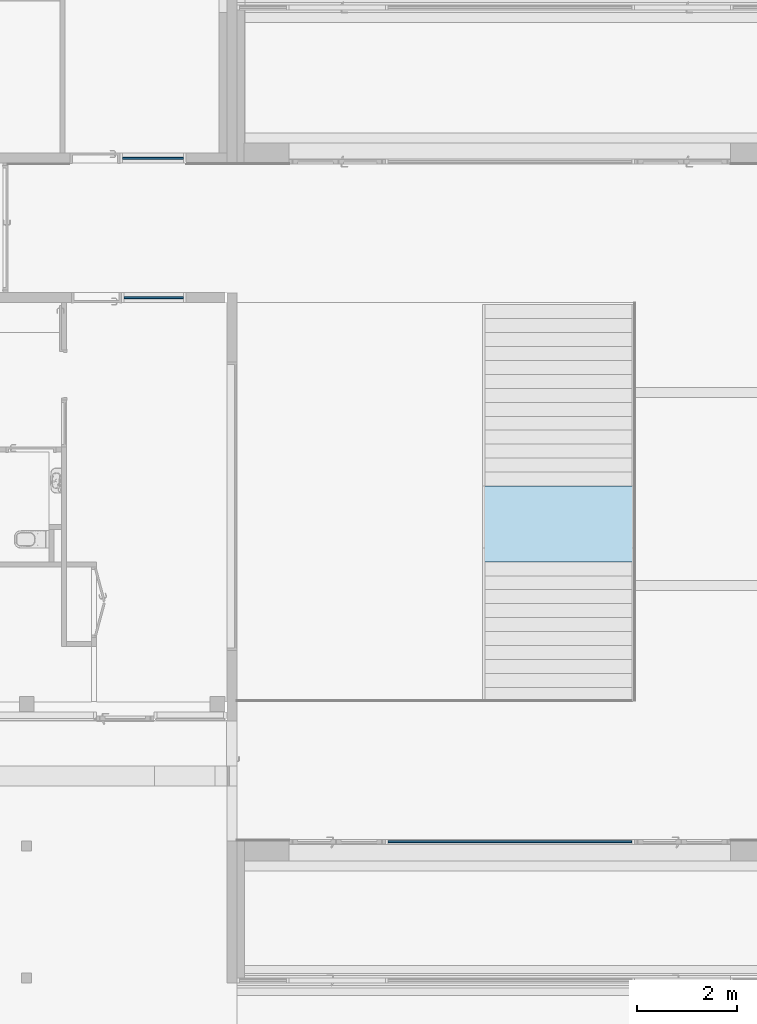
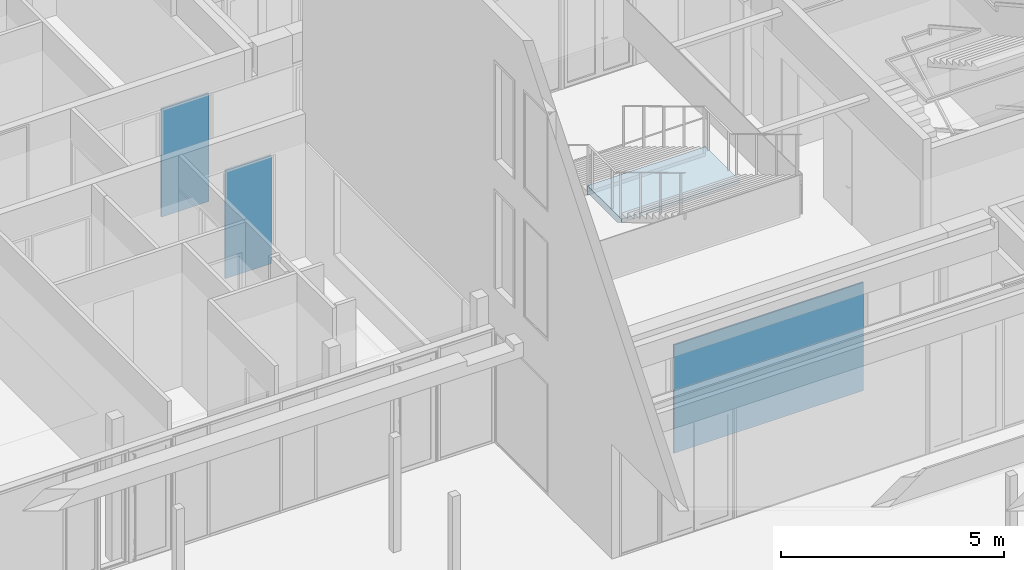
# One storey, part 70 of 240: 3 plates, 1 slab, 4 elements without a shape of their own.
"""IFC2X3 building model written with IfcOpenShell, lengths in centimetres."""

from ifc_helpers import new_model, entity, si_unit, converted_unit, derived_unit, direction, frame, frame_2d, origin, origin_2d_with_axis, place, context, subcontext, project, spatial, polyline, rectangle, outline, extrude, source, transform, mapped, material, layer, layer_set, layer_usage, type_object, type_shapes, element, aggregate, save


model = new_model("IFC2X3")

# Units and contexts
model_context = context("Model", 3, precision=0.001, world=origin(), true_north=direction((6.12303176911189e-17, 1.0)))
body_context = subcontext(model_context, "Body", "Model", "MODEL_VIEW")
ifc_project = project(units=[si_unit("LENGTHUNIT", "METRE", prefix="CENTI"), si_unit("AREAUNIT", "SQUARE_METRE"), si_unit("VOLUMEUNIT", "CUBIC_METRE"), converted_unit("PLANEANGLEUNIT", "DEGREE", entity("IfcRatioMeasure", 0.0174532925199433), si_unit("PLANEANGLEUNIT", "RADIAN"), dimensions=[0, 0, 0, 0, 0, 0, 0]), si_unit("MASSUNIT", "GRAM", prefix="KILO"), derived_unit("MASSDENSITYUNIT", [(si_unit("MASSUNIT", "GRAM", prefix="KILO"), 1), (si_unit("LENGTHUNIT", "METRE"), -3)]), si_unit("TIMEUNIT", "SECOND"), si_unit("FREQUENCYUNIT", "HERTZ"), si_unit("THERMODYNAMICTEMPERATUREUNIT", "DEGREE_CELSIUS"), derived_unit("THERMALTRANSMITTANCEUNIT", [(si_unit("MASSUNIT", "GRAM", prefix="KILO"), 1), (si_unit("THERMODYNAMICTEMPERATUREUNIT", "KELVIN"), -1), (si_unit("TIMEUNIT", "SECOND"), -3)]), derived_unit("VOLUMETRICFLOWRATEUNIT", [(si_unit("LENGTHUNIT", "METRE"), 3), (si_unit("TIMEUNIT", "SECOND"), -1)]), si_unit("ELECTRICCURRENTUNIT", "AMPERE"), si_unit("ELECTRICVOLTAGEUNIT", "VOLT"), si_unit("POWERUNIT", "WATT"), si_unit("FORCEUNIT", "NEWTON", prefix="KILO"), si_unit("ILLUMINANCEUNIT", "LUX"), si_unit("LUMINOUSFLUXUNIT", "LUMEN"), si_unit("LUMINOUSINTENSITYUNIT", "CANDELA"), derived_unit("USERDEFINED", [(si_unit("MASSUNIT", "GRAM", prefix="KILO"), -1), (si_unit("LENGTHUNIT", "METRE"), -2), (si_unit("TIMEUNIT", "SECOND"), 3), (si_unit("LUMINOUSFLUXUNIT", "LUMEN"), 1)]), derived_unit("LINEARVELOCITYUNIT", [(si_unit("LENGTHUNIT", "METRE"), 1), (si_unit("TIMEUNIT", "SECOND"), -1)]), si_unit("PRESSUREUNIT", "PASCAL"), derived_unit("USERDEFINED", [(si_unit("LENGTHUNIT", "METRE"), -2), (si_unit("MASSUNIT", "GRAM", prefix="KILO"), 1), (si_unit("TIMEUNIT", "SECOND"), -2)])], contexts=[model_context])

# Site, building, storey
site_placement = place(None, frame((-2781.94577612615, 7442.24238424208, 0.0)))
site = spatial("IfcSite", under=ifc_project, at=site_placement, Name="Default", CompositionType="ELEMENT")
building_placement = place(site_placement, origin())
building = spatial("IfcBuilding", under=site, at=building_placement, CompositionType="ELEMENT")
storey_placement = place(building_placement, origin())
storey = spatial("IfcBuildingStorey", under=building, at=storey_placement, Name="N00 - COO", CompositionType="ELEMENT", Elevation=0.0)

# Curtain wall, plate
curtain_wall_type_1 = type_object("IfcCurtainWallType", Name="Mur-rideau:07 - mur rideau vitrage sans recoupement 10cm", PredefinedType="NOTDEFINED")
curtain_wall_1_placement = place(storey_placement, origin())
curtain_wall_1 = element("IfcCurtainWall", 1, at=curtain_wall_1_placement, inside=storey, type_object=curtain_wall_type_1, Name="Mur-rideau:07 - mur rideau vitrage sans recoupement 10cm", ObjectType="Mur-rideau:07 - mur rideau vitrage sans recoupement 10cm")
ifc_material_1 = material(Name="Verre")
ifc_layer = layer(ifc_material_1, 4.0)
ifc_layer_set = layer_set([ifc_layer], Name="Panneau système:Vitré")
ifc_layer_usage_1 = layer_usage(ifc_layer_set, "AXIS3", "POSITIVE", 0.0)
plate_type_1 = type_object("IfcPlateType", Name="Vitré", PredefinedType="CURTAIN_PANEL", material=ifc_layer_set)
shared_shape_1 = source(origin(), body_context, "Body", "SweptSolid", [
    extrude(rectangle(XDim=4.0, YDim=490.0, at=origin_2d_with_axis()), frame((0.0, 0.0, 0.0), z_axis=(0.0, 0.0, 1.0), x_axis=(0.0, 1.0, 0.0)), (0.0, 0.0, 1.0), 296.0),
])
type_shapes(plate_type_1, [shared_shape_1])
plate_1_placement = place(curtain_wall_1_placement, frame((-4219.99987968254, -2192.01654856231, 5.0), z_axis=(0.0, 0.0, 1.0), x_axis=(-1.0, 0.0, 0.0)))
plate_1 = element("IfcPlate", 2, at=plate_1_placement, type_object=plate_type_1, material=ifc_layer_usage_1, Name="Panneau système:Vitré", ObjectType="Panneau système:Vitré", context=body_context, shape_type="MappedRepresentation", body=[
    mapped(shared_shape_1, transform((0.0, 0.0, 0.0), scale=1.0)),
])
aggregate(curtain_wall_1, [plate_1])

curtain_wall_type_2 = type_object("IfcCurtainWallType", PredefinedType="NOTDEFINED")
curtain_wall_2_placement = place(building_placement, origin())
curtain_wall_2 = element("IfcCurtainWall", 3, at=curtain_wall_2_placement, inside=storey, type_object=curtain_wall_type_2)
ifc_layer_usage_2 = layer_usage(ifc_layer_set, "AXIS3", "POSITIVE", 0.0)
plate_type_2 = type_object("IfcPlateType", Name="Vitré", PredefinedType="CURTAIN_PANEL", material=ifc_layer_set)
shared_shape_2 = source(origin(), body_context, "Body", "SweptSolid", [
    extrude(rectangle(XDim=4.0, YDim=120.000000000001, at=frame_2d((0.0, -3.5527136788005e-15), x_axis=(1.0, 0.0))), frame((0.0, 0.0, 0.0), z_axis=(0.0, 0.0, 1.0), x_axis=(0.0, 1.0, 0.0)), (0.0, 0.0, 1.0), 296.0),
])
type_shapes(plate_type_2, [shared_shape_2])
plate_2_placement = place(curtain_wall_2_placement, frame((-4934.49987760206, -1100.0, 5.0)))
plate_2 = element("IfcPlate", 4, at=plate_2_placement, type_object=plate_type_2, material=ifc_layer_usage_2, Name="Panneau système:Vitré", ObjectType="Panneau système:Vitré", context=body_context, shape_type="MappedRepresentation", body=[
    mapped(shared_shape_2, transform((0.0, 0.0, 0.0), scale=1.0)),
])
aggregate(curtain_wall_2, [plate_2])

curtain_wall_3_placement = place(storey_placement, origin())
curtain_wall_3 = element("IfcCurtainWall", 5, at=curtain_wall_3_placement, inside=storey, type_object=curtain_wall_type_2)
ifc_layer_usage_3 = layer_usage(ifc_layer_set, "AXIS3", "POSITIVE", 0.0)
plate_type_3 = type_object("IfcPlateType", Name="Vitré", PredefinedType="CURTAIN_PANEL", material=ifc_layer_set)
shared_shape_3 = source(origin(), body_context, "Body", "SweptSolid", [
    extrude(rectangle(XDim=4.0, YDim=123.00000000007, at=origin_2d_with_axis()), frame((0.0, 0.0, 0.0), z_axis=(0.0, 0.0, 1.0), x_axis=(0.0, 1.0, 0.0)), (0.0, 0.0, 1.0), 296.0),
])
type_shapes(plate_type_3, [shared_shape_3])
plate_3_placement = place(curtain_wall_3_placement, frame((-4935.99987760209, -820.048500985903, 5.0)))
plate_3 = element("IfcPlate", 6, at=plate_3_placement, type_object=plate_type_3, material=ifc_layer_usage_3, Name="Panneau système:Vitré", ObjectType="Panneau système:Vitré", context=body_context, shape_type="MappedRepresentation", body=[
    mapped(shared_shape_3, transform((0.0, 0.0, 0.0), scale=1.0)),
])
aggregate(curtain_wall_3, [plate_3])

# Stair, slab
stair_placement = place(storey_placement, origin())
stair = element("IfcStair", 7, at=stair_placement, inside=storey, Name="Escalier coulé sur place:Escalier", ObjectType="Escalier coulé sur place:Monobloc", ShapeType="NOTDEFINED")
ifc_material_2 = material(Name="Maçonnerie - Béton")
slab_placement = place(stair_placement, origin())
slab = element("IfcSlab", 8, at=slab_placement, material=ifc_material_2, Name="Escalier coulé sur place:Escalier:1812443 Landing 1", ObjectType="Palier monobloc:Epaisseur 150 mm", PredefinedType="LANDING", context=body_context, shape_type="SweptSolid", body=[
    extrude(outline(polyline([(-74.237825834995, -43.6687634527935), (-53.5931921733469, -43.6687634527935), (52.6695226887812, 20.392473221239), (64.7194512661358, 20.3924732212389), (59.8965941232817, 28.392473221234), (51.1815546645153, 42.8486998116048), (42.3436465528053, 37.5207037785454), (-63.919068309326, -26.5405328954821), (-79.0606829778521, -35.6687634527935), (-74.237825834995, -43.6687634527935)])), frame((-4274.99987968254, -1543.95499167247, 226.048599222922), z_axis=(1.0, 0.0, 0.0), x_axis=(0.0, 0.856411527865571, -0.516293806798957)), (0.0, 0.0, 1.0), 304.999999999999),
])
aggregate(stair, [slab])

save(model, "model.ifc")
